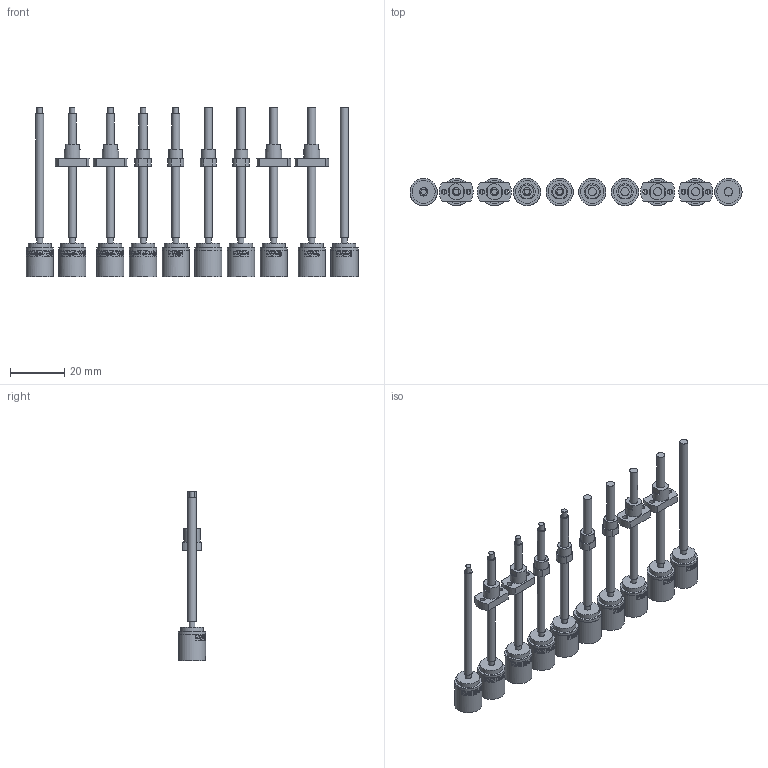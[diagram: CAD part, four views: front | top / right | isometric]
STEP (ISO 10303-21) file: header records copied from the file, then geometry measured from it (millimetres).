
FILE_DESCRIPTION(/* description */ (''),/* implementation_level */ '2;1');
FILE_NAME(/* name */ '10L-1stage_SL_standard_KWNx_KWS1.stp',/* time_stamp */ '2023-05-12T06:52:08+02:00',/* author */ ('DR. FRITZ FAULHABER GmbH & Co. KG'),/* organization */ ('DR. FRITZ FAULHABER GmbH & Co. KG'),/* preprocessor_version */ 'ST-DEVELOPER v16.7',/* originating_system */ 'SIEMENS PLM Software NX 1919',/* authorisation */ '');
FILE_SCHEMA (('AUTOMOTIVE_DESIGN { 1 0 10303 214 3 1 1 1 }'));
Length unit declared in the file: millimetre
Products named in the file (1): H99999996-C-Linear Actuato
Bounding box: 122 x 10 x 62.45 mm (x, y, z)
Volume: 13604.8 mm3; surface area: 12411.6 mm2
Topology: 10 solids, 10 shells, 940 faces, 2267 edges, 1512 vertices
Faces by surface type: plane 484, bspline 245, cylinder 201, cone 10
Full cylindrical faces by diameter (mm): 1.8 x8, 2 x5, 2.2 x10, 3 x18, 3.12 x10, 3.52 x10, 4.959 x10, 5 x4, 6 x14, 8.5 x10, 9.8 x10, 10 x20
Entity records: 45146 total; most frequent: CARTESIAN_POINT 22021, ORIENTED_EDGE 4184, DIRECTION 2779, EDGE_CURVE 2092, VERTEX_POINT 1478, EDGE_LOOP 1262, B_SPLINE_CURVE_WITH_KNOTS 1198, AXIS2_PLACEMENT_3D 1189
